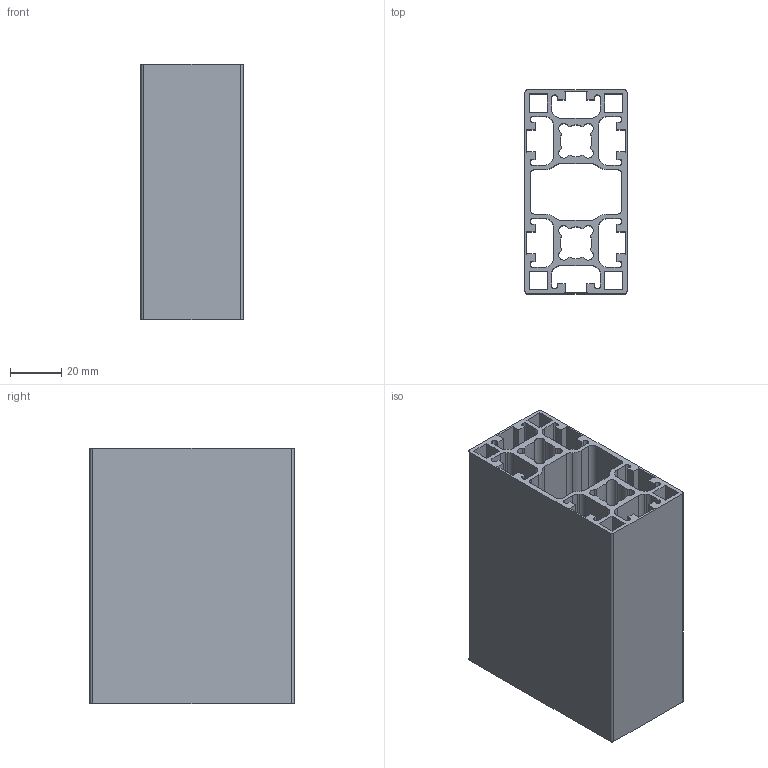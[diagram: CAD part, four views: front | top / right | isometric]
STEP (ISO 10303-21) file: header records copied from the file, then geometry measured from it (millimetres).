
FILE_DESCRIPTION((''),'2;1');
FILE_NAME('C:\Users\de2afr0\Desktop\New folder (2)\J9241876100.stp','2014-03-25T16:10:40',('de2afr0'),(''),'Autodesk Inventor 2011','Autodesk Inventor 2011','');
FILE_SCHEMA(('AUTOMOTIVE_DESIGN { 1 0 10303 214 1 1 1 1 }'));
Length unit declared in the file: millimetre
Products named in the file (1): MB01159501
Bounding box: 40 x 80 x 100 mm (x, y, z)
Volume: 95025.1 mm3; surface area: 96819.1 mm2
Topology: 1 solids, 1 shells, 226 faces, 672 edges, 448 vertices
Faces by surface type: plane 146, cylinder 80
Entity records: 7654 total; most frequent: CARTESIAN_POINT 1347, ORIENTED_EDGE 1344, DIRECTION 1286, EDGE_CURVE 672, VECTOR 512, LINE 512, VERTEX_POINT 448, AXIS2_PLACEMENT_3D 387
